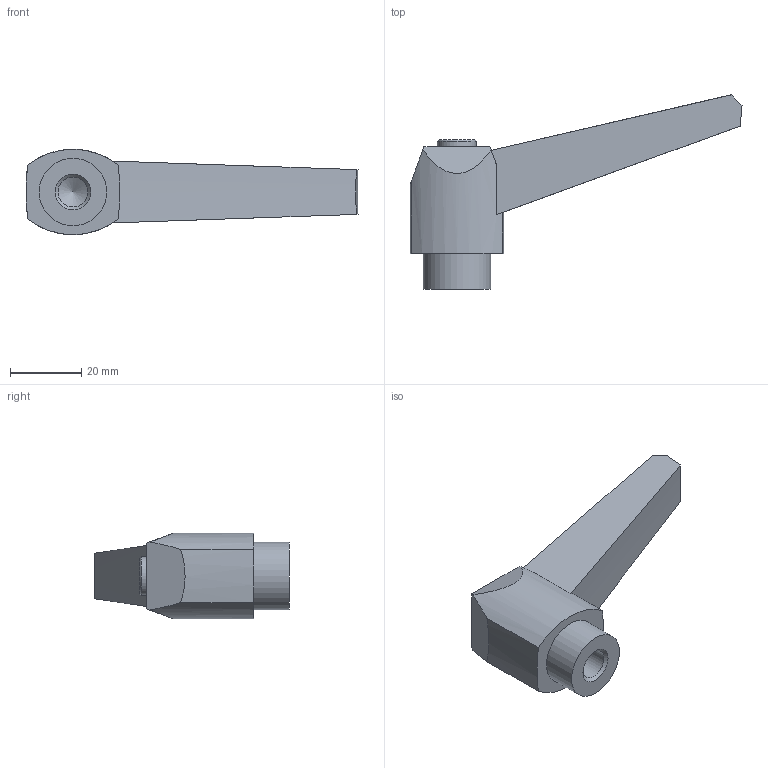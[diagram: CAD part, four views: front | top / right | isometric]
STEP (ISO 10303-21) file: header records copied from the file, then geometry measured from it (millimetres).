
FILE_DESCRIPTION( ( 'STEP AP203' ), '1' );
FILE_NAME( 'C:/Temp/Ganter_Step_05_03_2020/data/2_1/gn_500/gn_500_mb/Adjustable hand lever GN 500-80-M10-SW.stp', '2020-03-05T11:26:29', ( 'License CC BY-ND 4.0' ), ( 'CADENAS' ), ' ', 'PARTsolutions', ' ' );
FILE_SCHEMA( ( 'CONFIG_CONTROL_DESIGN' ) );
Length unit declared in the file: millimetre
Products named in the file (1): _Adjustable hand lever GN 500-80-M10-SW
Bounding box: 93.3 x 54.58 x 24 mm (x, y, z)
Volume: 31749.1 mm3; surface area: 8350.7 mm2
Topology: 1 solids, 1 shells, 24 faces, 58 edges, 38 vertices
Faces by surface type: plane 10, cone 7, cylinder 7
Full cylindrical faces by diameter (mm): 8.376 x1, 11 x1, 19 x1
Entity records: 713 total; most frequent: CARTESIAN_POINT 125, DIRECTION 118, ORIENTED_EDGE 100, EDGE_CURVE 50, AXIS2_PLACEMENT_3D 47, VERTEX_POINT 37, EDGE_LOOP 32, FACE_OUTER_BOUND 27
